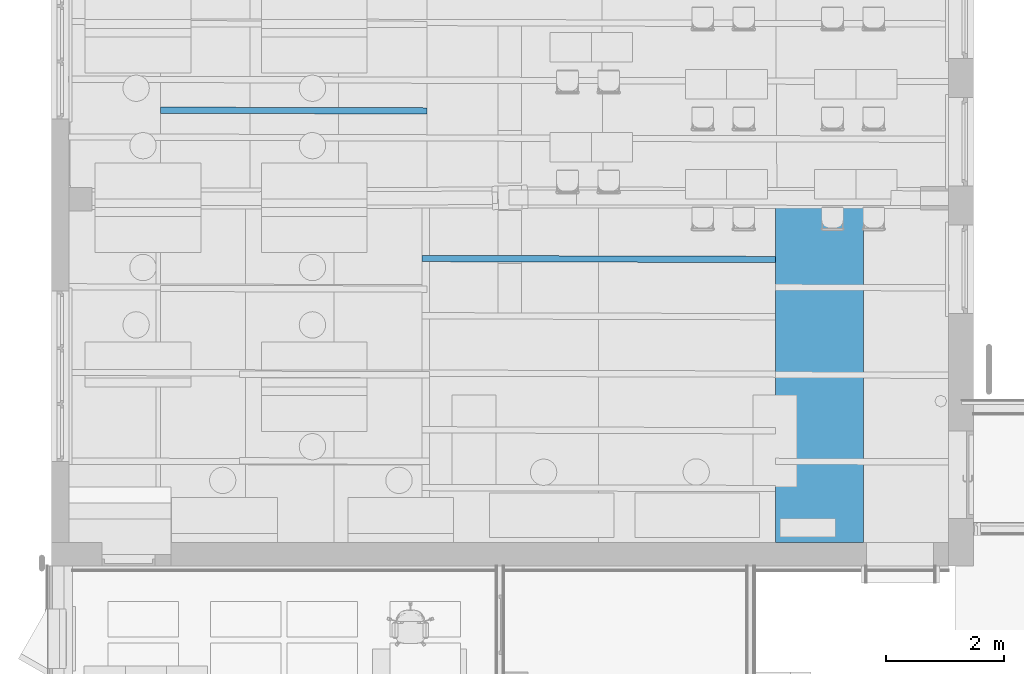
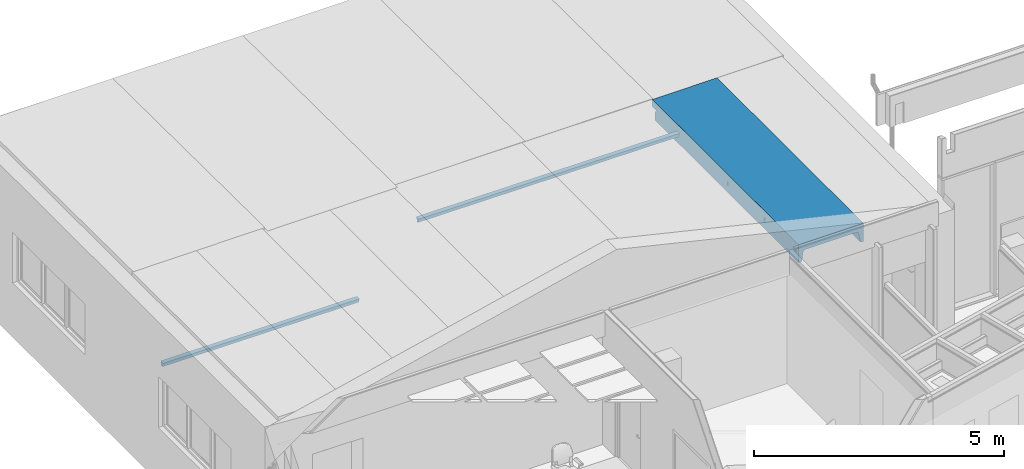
# One storey, part 21 of 153: 3 beams.
"""IFC2X3 building model written with IfcOpenShell, lengths in millimetres."""

from ifc_helpers import new_model, entity, si_unit, converted_unit, derived_unit, money_unit, direction, frame, origin_with_axes, place, context, subcontext, project, spatial, faceted_brep, material, type_object, element, save


model = new_model("IFC2X3")

# Units and contexts
model_context = context("Model", 3, precision=0.01, world=origin_with_axes(), true_north=direction((0.0, 1.0)))
body_context = subcontext(model_context, "Body", "Model", "MODEL_VIEW")
ifc_project = project(units=[si_unit("LENGTHUNIT", "METRE", prefix="MILLI"), si_unit("AREAUNIT", "SQUARE_METRE"), si_unit("VOLUMEUNIT", "CUBIC_METRE"), converted_unit("PLANEANGLEUNIT", "DEGREE", entity("IfcPlaneAngleMeasure", 0.0174532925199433), si_unit("PLANEANGLEUNIT", "RADIAN"), dimensions=[0, 0, 0, 0, 0, 0, 0]), money_unit("EUR"), converted_unit("TIMEUNIT", "Year", entity("IfcTimeMeasure", 31557600.0), si_unit("TIMEUNIT", "SECOND"), dimensions=[0, 0, 1, 0, 0, 0, 0]), si_unit("MASSUNIT", "GRAM", prefix="KILO"), si_unit("THERMODYNAMICTEMPERATUREUNIT", "DEGREE_CELSIUS"), si_unit("LUMINOUSINTENSITYUNIT", "LUMEN"), si_unit("ENERGYUNIT", "JOULE", prefix="MEGA"), derived_unit("THERMALCONDUCTANCEUNIT", [(si_unit("POWERUNIT", "WATT"), 1), (si_unit("LENGTHUNIT", "METRE"), -1), (si_unit("THERMODYNAMICTEMPERATUREUNIT", "KELVIN"), -1)]), derived_unit("SPECIFICHEATCAPACITYUNIT", [(si_unit("ENERGYUNIT", "JOULE"), 1), (si_unit("MASSUNIT", "GRAM", prefix="KILO"), -1), (si_unit("THERMODYNAMICTEMPERATUREUNIT", "KELVIN"), -1)]), derived_unit("MASSDENSITYUNIT", [(si_unit("MASSUNIT", "GRAM", prefix="KILO"), 1), (si_unit("VOLUMEUNIT", "CUBIC_METRE"), -1)])], contexts=[model_context])

# Site, building, storey
site_placement = place(None, frame((0.0, 0.0, 8650.0), z_axis=(0.0, 0.0, 1.0), x_axis=(1.0, 0.0, 0.0)))
site = spatial("IfcSite", under=ifc_project, at=site_placement, Name="43301:001:0844", CompositionType="ELEMENT")
building_placement = place(site_placement, origin_with_axes())
building = spatial("IfcBuilding", under=site, at=building_placement, Name="Kuressaare Ametikooli tuulikute mehaanikute õppekorpus", CompositionType="ELEMENT")
storey_placement = place(building_placement, frame((0.0, 0.0, 4100.0), z_axis=(0.0, 0.0, 1.0), x_axis=(1.0, 0.0, 0.0)))
storey = spatial("IfcBuildingStorey", under=building, at=storey_placement, Name="2.korrus", CompositionType="ELEMENT", Elevation=4100.0)

# Beams
ifc_material = material(Name="GENEERILINE - KONSTRUKTRIOON")
beam_type_1 = type_object("IfcBeamType", Name="Precast Double Tee 2 1500 x 440", PredefinedType="NOTDEFINED")
beam_1_placement = place(storey_placement, frame((101027.5122070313, 32038.65028336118, 2975.0), z_axis=(0.0, 0.0, 1.0), x_axis=(-1.0, 0.0, 0.0)))
element("IfcBeam", 1, at=beam_1_placement, inside=storey, type_object=beam_type_1, material=ifc_material, context=body_context, shape_type="Brep", body=[
    faceted_brep([(-586.8200850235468, 0.0, -169.8235593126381), (-455.5641232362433, 0.0, -169.8235593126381), (-455.5641232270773, 0.0, 0.0), (-750.0, 0.0, 0.0), (-750.0, 0.0, -169.8235593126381), (584.2531438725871, 173.1880046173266, -169.8235593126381), (584.2531439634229, 6.185274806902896, -169.8235593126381), (-586.8200851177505, 175.1308048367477, -169.8235593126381), (-586.8200850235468, 5855.581359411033, -169.8234995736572), (584.2531439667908, 5855.581359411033, -169.8234995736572), (721.4412357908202, 7.001327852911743, -169.8235593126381), (721.4412357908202, 7.001327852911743, 0.0), (721.4828826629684, 0.0, 0.0), (750.0, 0.0, 0.0), (750.0, 5855.581359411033, 0.0), (-750.0, 5855.581359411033, 0.0), (-750.0, 132.7664355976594, -222.3718680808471), (-750.0, 164.438955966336, -181.3564172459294), (-750.0, 175.401518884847, -169.8235593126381), (-750.0, 5855.581359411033, -440.0001340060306), (-750.0, 107.173888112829, -440.0001340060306), (-750.0, 107.1744107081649, -267.4325278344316), (-750.0, 1561.738452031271, -184.2365347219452), (-750.0, 1566.31308171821, -175.4406717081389), (-750.0, 1574.511957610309, -169.866336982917), (-750.0, 1467.483824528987, -169.866336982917), (-750.0, 1475.682633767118, -175.4405967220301), (-750.0, 1480.25728386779, -184.236339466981), (-750.0, 1500.998277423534, -271.8138152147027), (-750.0, 1540.998420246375, -271.8138152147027), (-750.0, 3054.780026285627, -175.4406717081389), (-750.0, 3062.978902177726, -169.866336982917), (-750.0, 2955.950769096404, -169.866336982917), (-750.0, 2964.149578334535, -175.4405967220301), (-750.0, 2968.724228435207, -184.236339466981), (-750.0, 2989.465221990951, -271.8138152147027), (-750.0, 3029.465364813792, -271.8138152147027), (-750.0, 3050.205396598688, -184.2365347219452), (-750.0, 4536.379817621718, -169.866336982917), (-750.0, 4429.351684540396, -169.866336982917), (-750.0, 4437.550493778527, -175.4405967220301), (-750.0, 4442.125143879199, -184.236339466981), (-750.0, 4462.866137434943, -271.8138152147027), (-750.0, 4502.866280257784, -271.8138152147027), (-750.0, 4523.606312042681, -184.2365347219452), (-750.0, 4528.18094172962, -175.4406717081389), (721.4828826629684, 0.0, -169.8235593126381), (750.0, 172.9130320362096, -169.8235593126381), (750.0, 0.0, -169.8235593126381), (-604.4404036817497, 1571.02375604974, -171.9734684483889), (-604.4404036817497, 2958.661031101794, -171.9734684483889), (-587.1706744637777, 2955.515641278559, -169.866336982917), (-587.1706744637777, 3062.543774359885, -169.866336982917), (-604.4404036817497, 3059.490700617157, -171.9734684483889), (-604.4404036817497, 4432.061946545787, -171.9734684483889), (-587.1706744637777, 4428.916556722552, -169.866336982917), (-587.1706744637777, 4535.944689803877, -169.866336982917), (-604.4404036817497, 4532.89161606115, -171.9734684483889), (-604.4404036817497, 5855.581359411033, -171.9734684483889), (-604.4404036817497, 173.1164397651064, -171.9734684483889), (-604.4404036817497, 1470.194086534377, -171.9734684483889), (-587.1706744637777, 1467.048696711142, -169.866336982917), (-587.1706744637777, 1574.076829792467, -169.866336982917), (621.7526411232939, 5855.581359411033, -184.072435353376), (604.310838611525, 5855.581359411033, -173.5057932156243), (-620.1516209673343, 5855.581359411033, -180.2351660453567), (-631.90952567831, 5855.581359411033, -193.5336498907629), (-638.1842783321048, 5855.581359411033, -210.1386333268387), (-680.0000000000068, 5855.581359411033, -440.0001340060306), (750.0, 5855.581359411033, -440.0001340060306), (674.9999969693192, 5855.581359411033, -440.0001340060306), (640.3274701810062, 5855.581359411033, -219.6283094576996), (634.3038197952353, 5855.581359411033, -200.1453415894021), (584.4864821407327, 1570.945817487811, -169.866336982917), (584.4864821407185, 1463.917684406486, -169.866336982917), (604.310838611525, 1469.217742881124, -173.5057932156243), (604.310838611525, 169.6545801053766, -173.5057932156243), (604.310838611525, 4527.407694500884, -173.5057932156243), (584.4864821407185, 4532.81367749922, -169.866336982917), (584.4864821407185, 4425.785544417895, -169.866336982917), (604.310838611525, 4431.085602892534, -173.5057932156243), (604.310838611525, 3054.006779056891, -173.5057932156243), (584.4864821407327, 3059.412762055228, -169.866336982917), (584.4864821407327, 2952.384628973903, -169.866336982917), (604.310838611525, 2957.684687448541, -173.5057932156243), (604.310838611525, 1565.539834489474, -173.5057932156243), (750.0, 130.277948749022, -222.3718680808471), (750.0, 104.6859238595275, -267.4325278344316), (750.0, 104.6854012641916, -440.0001340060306), (750.0, 161.9504691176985, -181.3564172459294), (750.0, 3050.77158539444, -175.4406717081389), (750.0, 3046.196955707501, -184.2365347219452), (750.0, 3025.456923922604, -271.8138152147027), (750.0, 3005.456394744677, -271.8138152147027), (750.0, 3005.45639474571, -169.866336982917), (750.0, 3058.970461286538, -169.866336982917), (750.0, 4519.597871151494, -184.2365347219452), (750.0, 4498.857839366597, -271.8138152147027), (750.0, 4478.857310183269, -271.8138152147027), (750.0, 4478.857310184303, -169.866336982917), (750.0, 4532.371376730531, -169.866336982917), (750.0, 4524.172500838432, -175.4406717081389), (750.0, 4899.948141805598, -184.236339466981), (750.0, 4895.373491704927, -175.4405967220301), (750.0, 4887.174682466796, -169.866336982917), (750.0, 4940.688749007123, -169.866336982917), (750.0, 4940.688749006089, -271.8138152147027), (750.0, 4920.689135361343, -271.8138152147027), (750.0, 3912.175648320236, -175.4405967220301), (750.0, 3903.976839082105, -169.866336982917), (750.0, 3957.490905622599, -169.866336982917), (750.0, 3957.490905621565, -271.8138152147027), (750.0, 3937.491291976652, -271.8138152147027), (750.0, 3916.750298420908, -184.236339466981), (750.0, 2940.242633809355, -169.866336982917), (750.0, 2993.756700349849, -169.866336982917), (750.0, 2993.756700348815, -271.8138152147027), (750.0, 2973.757086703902, -271.8138152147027), (750.0, 2953.016093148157, -184.236339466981), (750.0, 2948.441443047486, -175.4405967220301), (750.0, 2016.856954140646, -169.866336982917), (750.0, 2016.856954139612, -271.8138152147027), (750.0, 1996.857340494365, -271.8138152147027), (750.0, 1976.116346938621, -184.236339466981), (750.0, 1971.541696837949, -175.4405967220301), (750.0, 1963.342887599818, -169.866336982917), (750.0, 1043.095464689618, -271.8138152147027), (750.0, 1023.095851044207, -271.8138152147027), (750.0, 1002.354857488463, -184.236339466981), (750.0, 997.780207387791, -175.4405967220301), (750.0, 989.5813981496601, -169.866336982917), (750.0, 1043.095464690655, -169.866336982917), (-640.4097120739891, 132.5846262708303, -222.3718680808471), (-638.1842783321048, 142.027554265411, -210.1386333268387), (-631.9095256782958, 154.839670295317, -193.5336498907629), (-621.1429794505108, 164.2251832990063, -181.3564172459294), (-620.1516209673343, 165.2893444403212, -180.2351660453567), (-680.0000000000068, 107.0577587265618, -440.0001340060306), (-648.6070134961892, 107.0062006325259, -267.4325278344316), (-623.6894461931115, 1561.400913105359, -184.2365347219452), (-620.1516209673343, 1563.472525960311, -180.2351660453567), (-611.0339618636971, 1565.941723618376, -175.4406717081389), (-611.0338192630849, 1475.311275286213, -175.4405967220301), (-620.1516209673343, 1477.82928767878, -180.2351660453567), (-623.6892735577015, 1479.919744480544, -184.236339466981), (-631.9095256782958, 1482.143595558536, -193.5336498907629), (-638.1842783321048, 1486.092925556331, -210.1386333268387), (-649.4040442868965, 1500.729455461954, -271.8138152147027), (-649.4040442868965, 1540.729598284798, -271.8138152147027), (-638.1842783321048, 1555.305518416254, -210.1386333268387), (-631.9095256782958, 1559.221138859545, -193.5336498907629), (-611.0339618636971, 3054.408668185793, -175.4406717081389), (-611.0338192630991, 2963.77821985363, -175.4405967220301), (-620.1516209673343, 2966.296232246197, -180.2351660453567), (-623.6892735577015, 2968.386689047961, -184.236339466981), (-638.1842783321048, 2974.559870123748, -210.1386333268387), (-649.4040442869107, 2989.196400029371, -271.8138152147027), (-631.9095256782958, 2970.610540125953, -193.5336498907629), (-649.4040442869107, 3029.196542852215, -271.8138152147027), (-631.9095256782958, 3047.688083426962, -193.5336498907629), (-623.6894461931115, 3049.867857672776, -184.2365347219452), (-638.1842783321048, 3043.772462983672, -210.1386333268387), (-620.1516209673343, 3051.939470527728, -180.2351660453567), (-611.0338192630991, 4437.179135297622, -175.4405967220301), (-620.1516209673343, 4439.69714769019, -180.2351660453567), (-623.6892735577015, 4441.787604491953, -184.236339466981), (-649.4040442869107, 4462.597315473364, -271.8138152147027), (-631.9095256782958, 4444.011455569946, -193.5336498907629), (-638.1842783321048, 4447.96078556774, -210.1386333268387), (-649.4040442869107, 4502.597458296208, -271.8138152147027), (-623.6894461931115, 4523.268773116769, -184.2365347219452), (-638.1842783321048, 4517.173378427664, -210.1386333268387), (-631.90952567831, 4521.088998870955, -193.5336498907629), (-620.1516209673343, 4525.34038597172, -180.2351660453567), (-611.0339618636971, 4527.809583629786, -175.4406717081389), (617.269452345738, 162.1706679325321, -181.3564172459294), (621.7526411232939, 4520.02593203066, -184.072435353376), (607.5046411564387, 4524.553290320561, -175.4406717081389), (674.9999969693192, 104.8098256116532, -440.0001340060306), (640.3274701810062, 1549.641616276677, -219.6283094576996), (640.3274701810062, 2973.390753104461, -219.6283094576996), (648.5381538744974, 2985.727916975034, -271.8138152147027), (648.5381538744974, 3025.728059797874, -271.8138152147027), (640.3274701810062, 3038.108560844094, -219.6283094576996), (640.3274701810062, 4446.791668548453, -219.6283094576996), (648.5381538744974, 4459.128832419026, -271.8138152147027), (648.5381538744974, 4499.128975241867, -271.8138152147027), (640.3274701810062, 4511.509476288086, -219.6283094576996), (647.8488175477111, 104.8553917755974, -267.4325278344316), (640.7591320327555, 130.4591783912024, -222.3718680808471), (640.3274701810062, 132.5784965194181, -219.6283094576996), (640.3274701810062, 1484.923808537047, -219.6283094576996), (648.5381538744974, 1497.260972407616, -271.8138152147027), (648.5381538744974, 1537.261115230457, -271.8138152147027), (634.3038197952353, 4516.139525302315, -200.1453415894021), (621.8807847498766, 4519.940243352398, -184.2365347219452), (745.879402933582, 1463.486395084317, -169.866336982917), (746.1654115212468, 1570.513763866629, -169.866336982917), (745.901312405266, 1471.6851457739, -175.4405967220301), (607.5045173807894, 1472.054982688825, -175.4405967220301), (621.7526411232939, 1476.506311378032, -184.072435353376), (621.7526411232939, 160.0658954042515, -184.072435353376), (749.8569957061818, 4425.343625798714, -169.866336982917), (749.8789051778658, 4433.542376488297, -175.4405967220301), (607.5045173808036, 4433.922842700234, -175.4405967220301), (621.7526411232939, 4438.374171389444, -184.072435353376), (621.7526411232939, 3046.625016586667, -184.072435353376), (607.5046411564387, 3051.152374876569, -175.4406717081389), (749.8569957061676, 2951.942710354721, -169.866336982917), (749.8789051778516, 2960.141461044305, -175.4405967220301), (607.5045173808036, 2960.521927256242, -175.4405967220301), (621.7526411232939, 2964.973255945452, -184.072435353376), (621.7526411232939, 1558.158072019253, -184.072435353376), (607.5046411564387, 1562.685430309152, -175.4406717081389), (746.143501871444, 1562.314946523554, -175.4406717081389), (634.3038197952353, 147.6334223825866, -200.1453415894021), (621.8807847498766, 3046.539327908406, -184.2365347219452), (634.3038197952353, 3042.738609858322, -200.1453415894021), (749.9465555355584, 2985.456923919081, -271.8138152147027), (749.8911299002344, 2964.716078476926, -184.236339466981), (749.9465555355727, 4458.857839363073, -271.8138152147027), (749.8911299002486, 4438.116993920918, -184.236339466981), (749.8911299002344, 4899.948432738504, -184.236339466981), (749.8789051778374, 4895.373815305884, -175.4405967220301), (749.8569957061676, 4887.175064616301, -169.866336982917), (749.9465555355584, 4920.68927818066, -271.8138152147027), (749.8569957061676, 3903.97722123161, -169.866336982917), (749.8789051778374, 3912.175971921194, -175.4405967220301), (749.8911299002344, 3916.750589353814, -184.236339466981), (749.9465555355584, 3937.491434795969, -271.8138152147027), (749.8569957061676, 2940.24301595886, -169.866336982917), (749.8789051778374, 2948.441766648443, -175.4405967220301), (749.8911299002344, 2953.016384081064, -184.236339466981), (749.9465555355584, 2973.757229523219, -271.8138152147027), (749.8789051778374, 1971.542020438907, -175.4405967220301), (749.8911299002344, 1976.116637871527, -184.236339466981), (749.9465555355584, 1996.857483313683, -271.8138152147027), (749.8569957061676, 1963.343269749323, -169.866336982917), (749.9465555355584, 1023.095993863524, -271.8138152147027), (749.8911299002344, 1002.355148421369, -184.236339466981), (749.8789051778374, 997.7805309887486, -175.4405967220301), (749.8569957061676, 989.5817802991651, -169.866336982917), (634.3038197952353, 2968.792694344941, -200.1453415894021), (634.3038197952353, 1554.271665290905, -200.1453415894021), (621.88063227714, 2965.058160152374, -184.236339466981), (634.3038197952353, 4442.193609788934, -200.1453415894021), (621.88063227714, 4438.459075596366, -184.236339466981), (634.3038197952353, 1480.325749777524, -200.1453415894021), (745.9689627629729, 1497.000608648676, -271.8138152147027), (621.8806322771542, 1476.591215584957, -184.236339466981), (745.9135371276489, 1476.259763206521, -184.236339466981), (746.0758541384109, 1537.000465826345, -271.8138152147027), (746.1312772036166, 1557.74034950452, -184.2365347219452), (621.8807847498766, 1558.072383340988, -184.2365347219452)], [[[0, 1, 2, 3, 4]], [[5, 6, 1, 0, 7, 8, 9]], [[10, 11, 2, 1, 6]], [[2, 11, 12, 13, 14, 15, 3]], [[16, 17, 18, 4, 3, 15, 19, 20, 21], [22, 23, 24, 25, 26, 27, 28, 29], [30, 31, 32, 33, 34, 35, 36, 37], [38, 39, 40, 41, 42, 43, 44, 45]], [[18, 7, 0, 4]], [[46, 10, 6, 5, 47, 48]], [[49, 50, 51, 52, 53, 54, 55, 56, 57, 58, 8, 7, 59, 60, 61, 62]], [[63, 64, 9, 8, 58, 65, 66, 67, 68, 19, 15, 14, 69, 70, 71, 72]], [[73, 74, 75, 76, 5, 9, 64, 77, 78, 79, 80, 81, 82, 83, 84, 85]], [[46, 12, 11, 10]], [[13, 12, 46, 48]], [[86, 87, 88, 69, 14, 13, 48, 47, 89], [90, 91, 92, 93, 94, 95], [96, 97, 98, 99, 100, 101], [102, 103, 104, 105, 106, 107], [108, 109, 110, 111, 112, 113], [114, 115, 116, 117, 118, 119], [120, 121, 122, 123, 124, 125], [126, 127, 128, 129, 130, 131]], [[132, 133, 134, 135, 17, 16]], [[135, 136, 59, 7, 18, 17]], [[19, 68, 137, 20]], [[137, 138, 21, 20]], [[138, 132, 16, 21]], [[22, 139, 140, 141, 23]], [[23, 141, 49, 62, 24]], [[61, 25, 24, 62]], [[25, 61, 60, 142, 26]], [[26, 142, 143, 144, 27]], [[145, 146, 147, 28, 27, 144]], [[148, 29, 28, 147]], [[149, 150, 139, 22, 29, 148]], [[151, 53, 52, 31, 30]], [[32, 31, 52, 51]], [[51, 50, 152, 33, 32]], [[152, 153, 154, 34, 33]], [[155, 156, 35, 34, 154, 157]], [[36, 35, 156, 158]], [[159, 160, 37, 36, 158, 161]], [[160, 162, 151, 30, 37]], [[38, 56, 55, 39]], [[54, 163, 40, 39, 55]], [[164, 165, 41, 40, 163]], [[166, 42, 41, 165, 167, 168]], [[42, 166, 169, 43]], [[170, 44, 43, 169, 171, 172]], [[173, 174, 45, 44, 170]], [[57, 56, 38, 45, 174]], [[5, 76, 175, 89, 47]], [[140, 153, 152, 50, 49, 141]], [[164, 163, 54, 53, 151, 162]], [[58, 57, 174, 173, 65]], [[60, 59, 136, 143, 142]], [[63, 176, 177, 77, 64]], [[65, 173, 170, 172, 66]], [[171, 67, 66, 172]], [[146, 133, 132, 138, 137, 68, 67, 171, 169, 166, 168, 161, 158, 156, 155, 149, 148, 147]], [[70, 69, 88, 178]], [[179, 180, 181, 182, 183, 184, 185, 186, 187, 71, 70, 178, 188, 189, 190, 191, 192, 193]], [[194, 72, 71, 187]], [[72, 194, 195, 176, 63]], [[196, 74, 73, 197]], [[74, 196, 198, 199, 75]], [[175, 76, 75, 199, 200, 201]], [[101, 100, 78, 77, 177]], [[99, 202, 79, 78, 100]], [[203, 204, 80, 79, 202]], [[80, 204, 205, 206, 207, 81]], [[207, 90, 95, 82, 81]], [[95, 94, 208, 83, 82]], [[208, 209, 210, 84, 83]], [[85, 84, 210, 211, 212, 213]], [[85, 213, 214, 197, 73]], [[87, 86, 189, 188]], [[88, 87, 188, 178]], [[189, 86, 89, 175, 201, 215, 190]], [[216, 91, 90, 207, 206]], [[92, 91, 216, 217, 183, 182]], [[218, 93, 92, 182, 181]], [[209, 208, 94, 93, 218, 219]], [[96, 195, 194, 187, 186, 97]], [[98, 97, 186, 185, 220]], [[202, 99, 98, 220, 221, 203]], [[96, 101, 177, 176, 195]], [[222, 223, 103, 102]], [[223, 224, 104, 103]], [[105, 104, 224]], [[106, 105, 224, 223, 222, 225]], [[107, 106, 225]], [[225, 222, 102, 107]], [[226, 109, 108, 227]], [[109, 226, 110]], [[110, 226, 227, 228, 229, 111]], [[111, 229, 112]], [[228, 113, 112, 229]], [[227, 108, 113, 228]], [[230, 115, 114]], [[230, 231, 232, 233, 116, 115]], [[233, 117, 116]], [[118, 117, 233, 232]], [[119, 118, 232, 231]], [[114, 119, 231, 230]], [[234, 235, 236, 121, 120, 237]], [[122, 121, 236]], [[122, 236, 235, 123]], [[123, 235, 234, 124]], [[124, 234, 237, 125]], [[120, 125, 237]], [[126, 238, 127]], [[238, 239, 128, 127]], [[239, 240, 129, 128]], [[240, 241, 130, 129]], [[130, 241, 131]], [[239, 238, 126, 131, 241, 240]], [[133, 146, 145, 134]], [[135, 134, 145, 144, 143, 136]], [[150, 157, 154, 153, 140, 139]], [[155, 157, 150, 149]], [[167, 165, 164, 162, 160, 159]], [[167, 159, 161, 168]], [[242, 180, 179, 243]], [[181, 180, 242, 244, 219, 218]], [[184, 183, 217, 245]], [[184, 245, 246, 221, 220, 185]], [[215, 247, 191, 190]], [[248, 192, 191, 247, 249, 250]], [[251, 193, 192, 248]], [[193, 251, 252, 253, 243, 179]], [[197, 214, 252, 251, 248, 250, 198, 196]], [[199, 198, 250, 249, 200]], [[247, 215, 201, 200, 249]], [[221, 246, 205, 204, 203]], [[205, 246, 245, 217, 216, 206]], [[209, 219, 244, 211, 210]], [[212, 211, 244, 242, 243, 253]], [[212, 253, 252, 214, 213]]]),
])
beam_type_2 = type_object("IfcBeamType", Name="Precast Single Tee 2 107 x 102", PredefinedType="NOTDEFINED")
beam_2_placement = place(storey_placement, frame((94265.87775377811, 31011.61967291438, 2805.133663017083), z_axis=(0.0, 0.0, 1.0), x_axis=(-0.002672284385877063, -0.9999964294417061, 0.0)))
element("IfcBeam", 2, at=beam_2_placement, inside=storey, type_object=beam_type_2, material=ifc_material, context=body_context, shape_type="Brep", body=[
    faceted_brep([(45.31502884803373, 0.0, -5.574334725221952), (45.31502884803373, 6011.655918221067, -5.574334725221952), (53.51387546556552, 6011.655918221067, 0.0), (53.51387546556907, 0.0, 0.0), (40.74041549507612, 0.0, -14.37019773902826), (40.74041549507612, 6011.655918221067, -14.37019773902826), (20.00045776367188, 6011.655918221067, -101.9474782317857), (-19.99954223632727, 6011.655918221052, -101.9474782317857), (-40.7404617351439, 6011.655918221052, -14.37000248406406), (-45.31509550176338, 6011.655918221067, -5.574259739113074), (-53.51387546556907, 6011.655918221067, 0.0), (-53.51387546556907, 0.0, 0.0), (-45.31509550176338, 0.0, -5.574259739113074), (-40.7404617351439, 0.0, -14.37000248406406), (-19.99954223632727, 0.0, -101.9474782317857), (20.00045776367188, 0.0, -101.9474782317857)], [[[0, 1, 2, 3]], [[4, 5, 1, 0]], [[2, 1, 5, 6, 7, 8, 9, 10]], [[3, 2, 10, 11]], [[4, 0, 3, 11, 12, 13, 14, 15]], [[15, 6, 5, 4]], [[14, 7, 6, 15]], [[13, 8, 7, 14]], [[12, 9, 8, 13]], [[11, 10, 9, 12]]]),
])
beam_3_placement = place(storey_placement, frame((89817.75241851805, 33535.71491016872, -689.9999999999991), z_axis=(0.0, 0.0, 1.0), x_axis=(-0.002672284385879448, -0.9999964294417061, 0.0)))
element("IfcBeam", 3, at=beam_3_placement, inside=storey, type_object=beam_type_2, material=ifc_material, context=body_context, shape_type="Brep", body=[
    faceted_brep([(45.31502884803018, 0.0, -5.574334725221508), (45.31502884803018, 4530.016174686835, -5.574334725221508), (53.51387546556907, 4530.01617468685, 0.0), (53.51387546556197, 0.0, 0.0), (40.74041549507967, 0.0, -14.37019773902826), (40.74041549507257, 4530.016174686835, -14.37019773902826), (20.00045776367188, 4530.01617468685, -101.9474782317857), (-19.99954223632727, 4530.01617468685, -101.9474782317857), (-40.74046173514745, 4530.01617468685, -14.3700024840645), (-45.31509550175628, 4530.016174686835, -5.574259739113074), (-53.51387546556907, 4530.016174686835, 0.0), (-53.51387546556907, 0.0, 0.0), (-45.31509550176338, 0.0, -5.574259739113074), (-40.74046173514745, 0.0, -14.3700024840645), (-19.99954223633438, 0.0, -101.9474782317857), (20.00045776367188, 0.0, -101.9474782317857)], [[[0, 1, 2, 3]], [[4, 5, 1, 0]], [[2, 1, 5, 6, 7, 8, 9, 10]], [[3, 2, 10, 11]], [[4, 0, 3, 11, 12, 13, 14, 15]], [[15, 6, 5, 4]], [[14, 7, 6, 15]], [[13, 8, 7, 14]], [[12, 9, 8, 13]], [[11, 10, 9, 12]]]),
])

save(model, "model.ifc")
